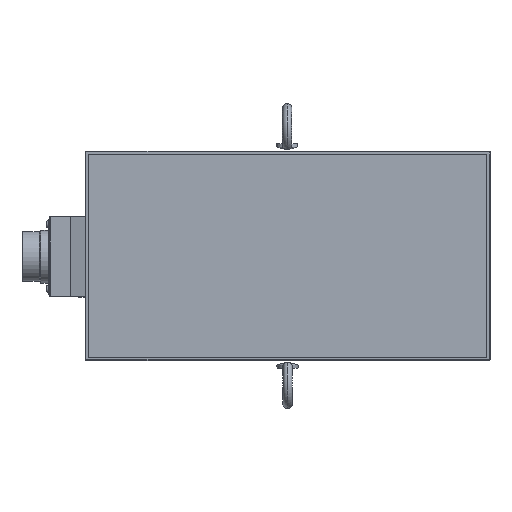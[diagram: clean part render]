
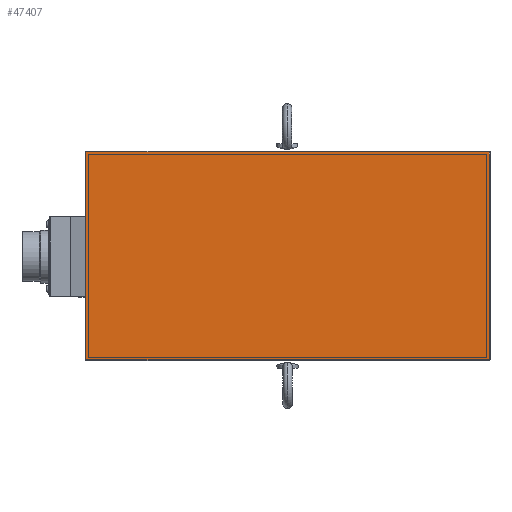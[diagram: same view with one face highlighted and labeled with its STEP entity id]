
A CAD part, top view. The second image highlights one B-rep face of the part: STEP entity #47407.
In plain terms, the highlighted planar face has unit normal (0, 0, 1).
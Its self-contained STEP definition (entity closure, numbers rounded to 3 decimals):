
#47368=CARTESIAN_POINT('',(-72.5,65.,568.));
#47369=DIRECTION('',(0.,1.,0.));
#47370=DIRECTION('',(0.,-0.,1.));
#47371=AXIS2_PLACEMENT_3D('',#47368,#47370,#47369);
#47372=PLANE('',#47371);
#47373=CARTESIAN_POINT('',(-206.5,-69.,568.));
#47374=VERTEX_POINT('',#47373);
#47375=CARTESIAN_POINT('',(61.5,-69.,568.));
#47376=VERTEX_POINT('',#47375);
#47377=CARTESIAN_POINT('',(-206.5,-69.,568.));
#47378=DIRECTION('',(1.,0.,0.));
#47379=VECTOR('',#47378,268.);
#47380=LINE('',#47377,#47379);
#47381=EDGE_CURVE('',#47374,#47376,#47380,.T.);
#47382=ORIENTED_EDGE('E7602',*,*,#47381,.T.);
#47383=CARTESIAN_POINT('',(61.5,69.,568.));
#47384=VERTEX_POINT('',#47383);
#47385=CARTESIAN_POINT('',(61.5,-69.,568.));
#47386=DIRECTION('',(0.,1.,0.));
#47387=VECTOR('',#47386,138.);
#47388=LINE('',#47385,#47387);
#47389=EDGE_CURVE('',#47376,#47384,#47388,.T.);
#47390=ORIENTED_EDGE('E7603',*,*,#47389,.T.);
#47391=CARTESIAN_POINT('',(-206.5,69.,568.));
#47392=VERTEX_POINT('',#47391);
#47393=CARTESIAN_POINT('',(61.5,69.,568.));
#47394=DIRECTION('',(-1.,0.,0.));
#47395=VECTOR('',#47394,268.);
#47396=LINE('',#47393,#47395);
#47397=EDGE_CURVE('',#47384,#47392,#47396,.T.);
#47398=ORIENTED_EDGE('E7604',*,*,#47397,.T.);
#47399=CARTESIAN_POINT('',(-206.5,69.,568.));
#47400=DIRECTION('',(0.,-1.,0.));
#47401=VECTOR('',#47400,138.);
#47402=LINE('',#47399,#47401);
#47403=EDGE_CURVE('',#47392,#47374,#47402,.T.);
#47404=ORIENTED_EDGE('E7605',*,*,#47403,.T.);
#47405=EDGE_LOOP('',(#47382,#47390,#47398,#47404));
#47406=FACE_OUTER_BOUND('',#47405,.T.);
#47407=ADVANCED_FACE('F2951',(#47406),#47372,.T.);
